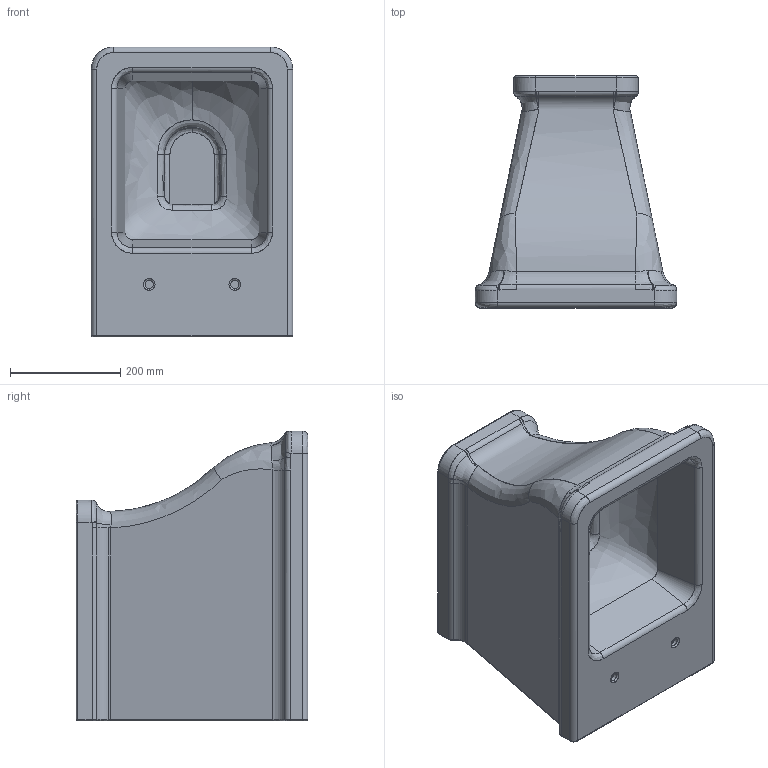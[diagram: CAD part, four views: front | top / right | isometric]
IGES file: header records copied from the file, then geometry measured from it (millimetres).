
Start section: C
Global section: file name: WC Butterfly a terra.igs; native system:  By UGS Corp.; preprocessor: XPlus GENERIC/IGES 3.0; author: Author; organization: Title; date: 20120705.093115; units: millimetre
Bounding box: 365 x 420 x 525 mm (x, y, z)
Surface area: 1442039.8 mm2 (no closed solid volume)
Topology: 0 solids, 0 shells, 265 faces, 1441 edges, 1433 vertices
Faces by surface type: bspline 265
